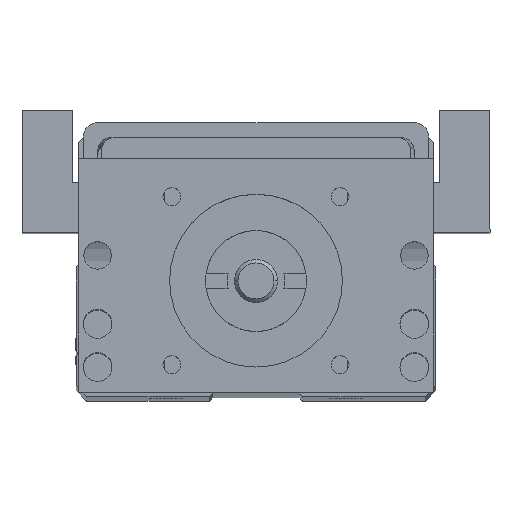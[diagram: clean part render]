
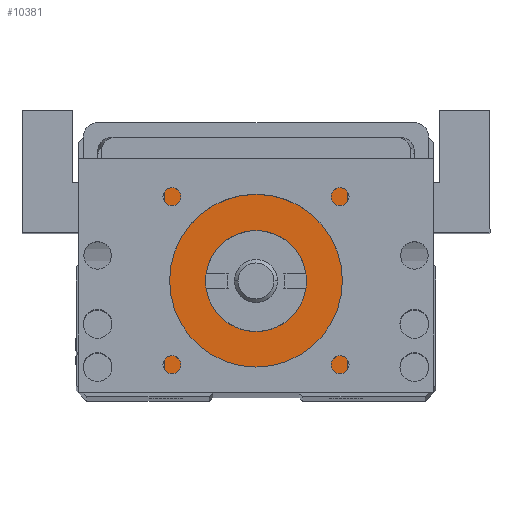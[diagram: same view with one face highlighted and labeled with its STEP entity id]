
A CAD part, top view. The second image highlights one B-rep face of the part: STEP entity #10381.
In plain terms, the highlighted planar face has unit normal (0, 0, 1).
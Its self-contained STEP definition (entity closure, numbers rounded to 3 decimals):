
#2224 = EDGE_CURVE ( 'NONE', #2232, #2233, #6498, .T. ) ;
#2232 = VERTEX_POINT ( 'NONE', #6497 ) ;
#2233 = VERTEX_POINT ( 'NONE', #6490 ) ;
#6490 = CARTESIAN_POINT ( 'NONE',  ( -7., 16., 211.5 ) ) ;
#6491 = DIRECTION ( 'NONE',  ( -1., 0., 0. ) ) ;
#6492 = DIRECTION ( 'NONE',  ( 0., 0., 1. ) ) ;
#6493 = CARTESIAN_POINT ( 'NONE',  ( 0., 16., 211.5 ) ) ;
#6494 = AXIS2_PLACEMENT_3D ( 'NONE', #6493, #6492, #6491 ) ;
#6497 = CARTESIAN_POINT ( 'NONE',  ( 7., 16., 211.5 ) ) ;
#6498 = CIRCLE ( 'NONE', #6494, 7. ) ;
#8400 = CARTESIAN_POINT ( 'NONE',  ( -12.7, 33., 211.5 ) ) ;
#8401 = PLANE ( 'NONE',  #8409 ) ;
#8402 = CIRCLE ( 'NONE', #8456, 7. ) ;
#8403 = FACE_OUTER_BOUND ( 'NONE', #10359, .T. ) ;
#8404 = CARTESIAN_POINT ( 'NONE',  ( -12.7, 0.5, 211.5 ) ) ;
#8408 = CARTESIAN_POINT ( 'NONE',  ( 12.7, 0.5, 211.5 ) ) ;
#8409 = AXIS2_PLACEMENT_3D ( 'NONE', #8440, #8452, #8435 ) ;
#8417 = DIRECTION ( 'NONE',  ( -1., 0., 0. ) ) ;
#8418 = VECTOR ( 'NONE', #8417, 1000. ) ;
#8419 = CARTESIAN_POINT ( 'NONE',  ( -6.008, 0.5, 211.5 ) ) ;
#8420 = LINE ( 'NONE', #8419, #8418 ) ;
#8435 = DIRECTION ( 'NONE',  ( -1., 0., 0. ) ) ;
#8438 = CARTESIAN_POINT ( 'NONE',  ( 12.7, 33., 211.5 ) ) ;
#8440 = CARTESIAN_POINT ( 'NONE',  ( -14.7, 0., 211.5 ) ) ;
#8447 = FACE_BOUND ( 'NONE', #10388, .T. ) ;
#8448 = DIRECTION ( 'NONE',  ( 0., 1., 0. ) ) ;
#8449 = VECTOR ( 'NONE', #8448, 1000. ) ;
#8450 = CARTESIAN_POINT ( 'NONE',  ( 12.7, 33., 211.5 ) ) ;
#8452 = DIRECTION ( 'NONE',  ( 0., 0., -1. ) ) ;
#8453 = DIRECTION ( 'NONE',  ( -1., 0., 0. ) ) ;
#8454 = DIRECTION ( 'NONE',  ( 0., 0., 1. ) ) ;
#8455 = CARTESIAN_POINT ( 'NONE',  ( 0., 16., 211.5 ) ) ;
#8456 = AXIS2_PLACEMENT_3D ( 'NONE', #8455, #8454, #8453 ) ;
#8457 = LINE ( 'NONE', #8450, #8449 ) ;
#8480 = DIRECTION ( 'NONE',  ( -1., 0., 0. ) ) ;
#8481 = VECTOR ( 'NONE', #8480, 1000. ) ;
#8482 = CARTESIAN_POINT ( 'NONE',  ( -14.7, 33., 211.5 ) ) ;
#8487 = LINE ( 'NONE', #8482, #8481 ) ;
#8489 = DIRECTION ( 'NONE',  ( 0., -1., 0. ) ) ;
#8490 = VECTOR ( 'NONE', #8489, 1000. ) ;
#8496 = CARTESIAN_POINT ( 'NONE',  ( -12.7, 0.5, 211.5 ) ) ;
#8497 = LINE ( 'NONE', #8496, #8490 ) ;
#10356 = EDGE_CURVE ( 'NONE', #10372, #10365, #8420, .T. ) ;
#10359 = EDGE_LOOP ( 'NONE', ( #10376, #10399, #10370, #10390 ) ) ;
#10365 = VERTEX_POINT ( 'NONE', #8404 ) ;
#10370 = ORIENTED_EDGE ( 'NONE', *, *, #10396, .T. ) ;
#10372 = VERTEX_POINT ( 'NONE', #8408 ) ;
#10374 = EDGE_CURVE ( 'NONE', #2233, #2232, #8402, .T. ) ;
#10375 = VERTEX_POINT ( 'NONE', #8400 ) ;
#10376 = ORIENTED_EDGE ( 'NONE', *, *, #10356, .F. ) ;
#10377 = EDGE_CURVE ( 'NONE', #10372, #10382, #8457, .T. ) ;
#10381 = ADVANCED_FACE ( 'NONE', ( #8403, #8447 ), #8401, .F. ) ;
#10382 = VERTEX_POINT ( 'NONE', #8438 ) ;
#10386 = EDGE_CURVE ( 'NONE', #10375, #10365, #8497, .T. ) ;
#10387 = ORIENTED_EDGE ( 'NONE', *, *, #2224, .F. ) ;
#10388 = EDGE_LOOP ( 'NONE', ( #10389, #10387 ) ) ;
#10389 = ORIENTED_EDGE ( 'NONE', *, *, #10374, .F. ) ;
#10390 = ORIENTED_EDGE ( 'NONE', *, *, #10386, .T. ) ;
#10396 = EDGE_CURVE ( 'NONE', #10382, #10375, #8487, .T. ) ;
#10399 = ORIENTED_EDGE ( 'NONE', *, *, #10377, .T. ) ;
